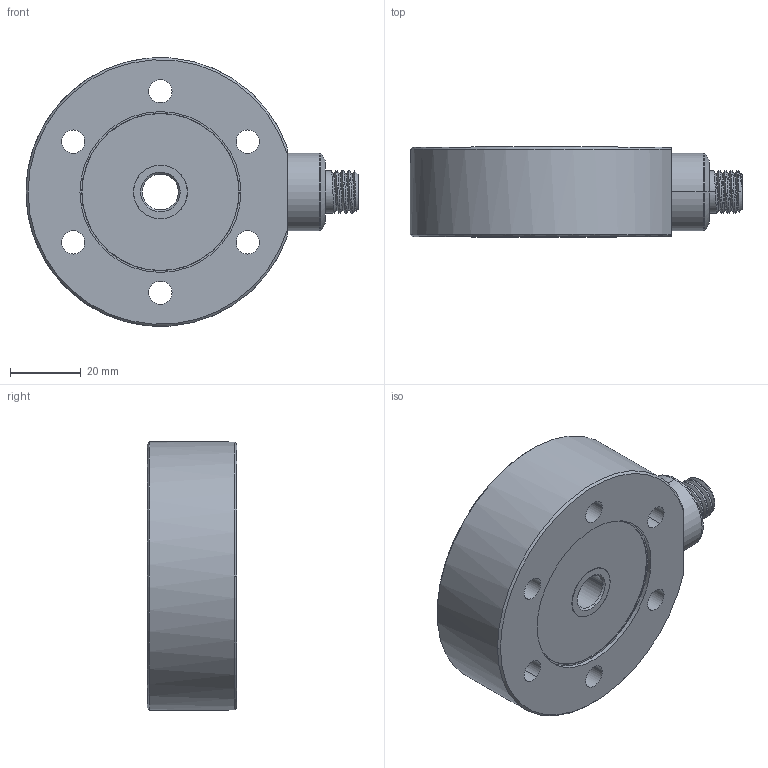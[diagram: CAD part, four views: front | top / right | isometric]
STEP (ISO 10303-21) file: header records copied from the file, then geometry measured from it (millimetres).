
FILE_DESCRIPTION (( 'STEP AP214' ), '1' );
FILE_NAME ('CLP 1,2 & 5kN.STEP', '2016-10-10T10:45:42', ( '' ), ( '' ), 'SwSTEP 2.0', 'SolidWorks 2011', '' );
FILE_SCHEMA (( 'AUTOMOTIVE_DESIGN' ));
Length unit declared in the file: millimetre
Products named in the file (8): ISO 4762 M2 x 8 --- 8N_ISO 4762 M2 x 8 --- 8N; MMACH-A005647; MMACH-A005646; Copy of dcellcan^AN1016,17,18,19 & 20_??; Copy of M12 Weld Connector^AN1016,17,18,19 & 20; MMACH-A005642; MMACH-A005641; CLP 1,2 & 5kN
Assembly tree (8 placements, depth 2):
  CLP 1,2 & 5kN
    Copy of dcellcan^AN1016,17,18,19 & 20_??
    MMACH-A005641
    ISO 4762 M2 x 8 --- 8N_ISO 4762 M2 x 8 --- 8N
    MMACH-A005647
    Copy of M12 Weld Connector^AN1016,17,18,19 & 20
    MMACH-A005646
    MMACH-A005642  x2
Bounding box: 94.1 x 25.4 x 76.12 mm (x, y, z)
Volume: 101262.2 mm3; surface area: 32496.2 mm2
Topology: 87 solids, 87 shells, 5168 faces, 13879 edges, 9232 vertices
Faces by surface type: plane 4033, cylinder 1013, bspline 59, torus 42, cone 21
Entity records: 220084 total; most frequent: CARTESIAN_POINT 32590, ORIENTED_EDGE 27730, DIRECTION 26107, EDGE_CURVE 13865, LINE 11533, VECTOR 11533, VERTEX_POINT 9224, AXIS2_PLACEMENT_3D 7287
